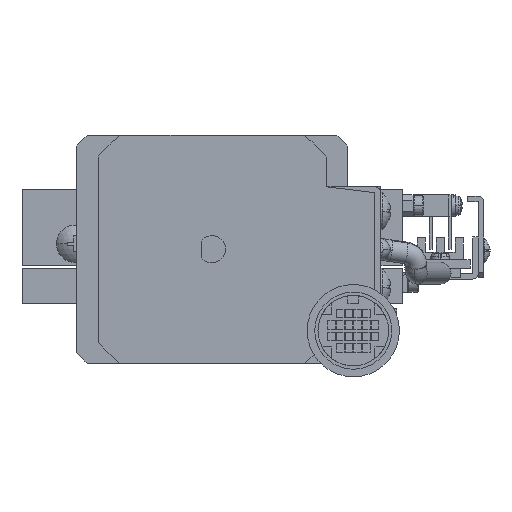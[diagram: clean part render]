
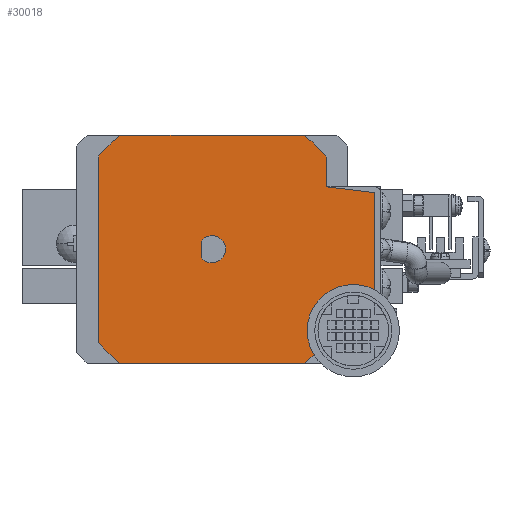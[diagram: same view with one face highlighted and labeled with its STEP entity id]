
A CAD part, left-side view. The second image highlights one B-rep face of the part: STEP entity #30018.
In plain terms, the highlighted planar face has unit normal (-1, 0, 0).
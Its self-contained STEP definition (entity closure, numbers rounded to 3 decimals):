
#132 = CARTESIAN_POINT ( 'NONE',  ( -237.04, 26.275, -135.523 ) ) ;
#339 = DIRECTION ( 'NONE',  ( 0., -0.629, 0.778 ) ) ;
#389 = AXIS2_PLACEMENT_3D ( 'NONE', #132, #9612, #339 ) ;
#750 = EDGE_CURVE ( 'NONE', #53190, #27024, #49613, .T. ) ;
#834 = EDGE_CURVE ( 'NONE', #55890, #53585, #42039, .T. ) ;
#1093 = EDGE_CURVE ( 'NONE', #32240, #59813, #14182, .T. ) ;
#1770 = CARTESIAN_POINT ( 'NONE',  ( -237.04, 28.275, -137.023 ) ) ;
#2570 = CARTESIAN_POINT ( 'NONE',  ( -237.04, 47.275, -118.552 ) ) ;
#3546 = CARTESIAN_POINT ( 'NONE',  ( -237.04, 43.246, -114.523 ) ) ;
#3749 = ORIENTED_EDGE ( 'NONE', *, *, #750, .F. ) ;
#3909 = CARTESIAN_POINT ( 'NONE',  ( -237.04, 5.275, -124.023 ) ) ;
#3978 = DIRECTION ( 'NONE',  ( 0., 0.993, -0.122 ) ) ;
#4107 = DIRECTION ( 'NONE',  ( 0., -0.993, -0.122 ) ) ;
#4213 = ORIENTED_EDGE ( 'NONE', *, *, #59749, .F. ) ;
#4564 = EDGE_CURVE ( 'NONE', #60052, #25714, #49022, .T. ) ;
#4738 = EDGE_CURVE ( 'NONE', #44512, #34258, #58839, .T. ) ;
#5337 = EDGE_CURVE ( 'NONE', #39050, #27586, #24074, .T. ) ;
#5404 = DIRECTION ( 'NONE',  ( 0., 0.8, 0.6 ) ) ;
#6878 = AXIS2_PLACEMENT_3D ( 'NONE', #59131, #34898, #15746 ) ;
#7447 = CARTESIAN_POINT ( 'NONE',  ( -237.04, 26.275, -135.523 ) ) ;
#8459 = LINE ( 'NONE', #57554, #58166 ) ;
#8825 = ORIENTED_EDGE ( 'NONE', *, *, #5337, .F. ) ;
#9238 = VECTOR ( 'NONE', #22918, 1000. ) ;
#9612 = DIRECTION ( 'NONE',  ( 1., 0., 0. ) ) ;
#9905 = VERTEX_POINT ( 'NONE', #44781 ) ;
#10039 = DIRECTION ( 'NONE',  ( 1., 0., 0. ) ) ;
#10284 = EDGE_LOOP ( 'NONE', ( #27396, #60784 ) ) ;
#10427 = CARTESIAN_POINT ( 'NONE',  ( -237.04, 43.246, -114.523 ) ) ;
#10468 = ORIENTED_EDGE ( 'NONE', *, *, #27690, .F. ) ;
#10527 = ORIENTED_EDGE ( 'NONE', *, *, #10803, .F. ) ;
#10803 = EDGE_CURVE ( 'NONE', #53585, #60052, #38579, .T. ) ;
#12565 = EDGE_CURVE ( 'NONE', #25714, #53190, #32732, .T. ) ;
#13121 = CARTESIAN_POINT ( 'NONE',  ( -237.04, 5.275, -147.023 ) ) ;
#13329 = ORIENTED_EDGE ( 'NONE', *, *, #29161, .F. ) ;
#13826 = EDGE_CURVE ( 'NONE', #27024, #16494, #37122, .T. ) ;
#14182 = CIRCLE ( 'NONE', #52184, 27. ) ;
#14995 = CARTESIAN_POINT ( 'NONE',  ( -237.04, 26.275, -135.523 ) ) ;
#15222 = DIRECTION ( 'NONE',  ( 0., 0.629, -0.778 ) ) ;
#15746 = DIRECTION ( 'NONE',  ( 0., 0., -1. ) ) ;
#16494 = VERTEX_POINT ( 'NONE', #13121 ) ;
#17006 = AXIS2_PLACEMENT_3D ( 'NONE', #56983, #57415, #18236 ) ;
#18161 = CARTESIAN_POINT ( 'NONE',  ( -237.04, 9.305, -114.523 ) ) ;
#18236 = DIRECTION ( 'NONE',  ( 0., -1., 0. ) ) ;
#18479 = CARTESIAN_POINT ( 'NONE',  ( -237.04, -3.286, -145.972 ) ) ;
#19273 = CARTESIAN_POINT ( 'NONE',  ( -237.04, 26.275, -135.523 ) ) ;
#19520 = CARTESIAN_POINT ( 'NONE',  ( -237.04, 26.275, -135.523 ) ) ;
#19907 = CARTESIAN_POINT ( 'NONE',  ( -237.04, 5.275, -118.552 ) ) ;
#19987 = LINE ( 'NONE', #52852, #43305 ) ;
#20992 = PLANE ( 'NONE',  #6878 ) ;
#22045 = VECTOR ( 'NONE', #42180, 1000. ) ;
#22422 = CARTESIAN_POINT ( 'NONE',  ( -237.04, 47.275, -152.494 ) ) ;
#22774 = LINE ( 'NONE', #28773, #22045 ) ;
#22918 = DIRECTION ( 'NONE',  ( 0., -1., 0. ) ) ;
#23803 = EDGE_CURVE ( 'NONE', #48346, #9905, #45565, .T. ) ;
#24074 = CIRCLE ( 'NONE', #44665, 27. ) ;
#25714 = VERTEX_POINT ( 'NONE', #46247 ) ;
#26504 = VECTOR ( 'NONE', #4107, 1000. ) ;
#27024 = VERTEX_POINT ( 'NONE', #46084 ) ;
#27343 = DIRECTION ( 'NONE',  ( 1., 0., 0. ) ) ;
#27396 = ORIENTED_EDGE ( 'NONE', *, *, #4738, .T. ) ;
#27586 = VERTEX_POINT ( 'NONE', #22422 ) ;
#27690 = EDGE_CURVE ( 'NONE', #16494, #48346, #22774, .T. ) ;
#28168 = CARTESIAN_POINT ( 'NONE',  ( -237.04, 5.275, -118.552 ) ) ;
#28372 = VECTOR ( 'NONE', #40042, 1000. ) ;
#28773 = CARTESIAN_POINT ( 'NONE',  ( -237.04, 5.275, -147.023 ) ) ;
#29161 = EDGE_CURVE ( 'NONE', #9905, #39050, #19987, .T. ) ;
#29692 = CIRCLE ( 'NONE', #389, 27. ) ;
#30018 = ADVANCED_FACE ( 'NONE', ( #45518, #42478 ), #20992, .F. ) ;
#30141 = AXIS2_PLACEMENT_3D ( 'NONE', #46031, #27343, #60991 ) ;
#31565 = AXIS2_PLACEMENT_3D ( 'NONE', #19520, #47944, #48377 ) ;
#32240 = VERTEX_POINT ( 'NONE', #2570 ) ;
#32732 = LINE ( 'NONE', #43251, #47014 ) ;
#33150 = VERTEX_POINT ( 'NONE', #18161 ) ;
#33296 = ORIENTED_EDGE ( 'NONE', *, *, #1093, .F. ) ;
#33959 = CARTESIAN_POINT ( 'NONE',  ( -237.04, 28.275, -134.023 ) ) ;
#34258 = VERTEX_POINT ( 'NONE', #1770 ) ;
#34581 = VECTOR ( 'NONE', #38656, 1000. ) ;
#34776 = CARTESIAN_POINT ( 'NONE',  ( -237.04, 43.246, -156.523 ) ) ;
#34898 = DIRECTION ( 'NONE',  ( 1., 0., 0. ) ) ;
#37084 = CARTESIAN_POINT ( 'NONE',  ( -237.04, 5.275, -152.494 ) ) ;
#37122 = LINE ( 'NONE', #18479, #59731 ) ;
#38219 = ORIENTED_EDGE ( 'NONE', *, *, #12565, .F. ) ;
#38252 = ORIENTED_EDGE ( 'NONE', *, *, #834, .F. ) ;
#38579 = LINE ( 'NONE', #3909, #26504 ) ;
#38656 = DIRECTION ( 'NONE',  ( 0., 0., -1. ) ) ;
#39050 = VERTEX_POINT ( 'NONE', #34776 ) ;
#39798 = EDGE_LOOP ( 'NONE', ( #33296, #49174, #8825, #13329, #57557, #10468, #60461, #3749, #38219, #48859, #10527, #38252, #4213, #46216 ) ) ;
#40042 = DIRECTION ( 'NONE',  ( 0., 0., -1. ) ) ;
#40405 = LINE ( 'NONE', #33959, #28372 ) ;
#40700 = EDGE_CURVE ( 'NONE', #27586, #32240, #8459, .T. ) ;
#42039 = LINE ( 'NONE', #28168, #34581 ) ;
#42180 = DIRECTION ( 'NONE',  ( 0., 0., -1. ) ) ;
#42478 = FACE_BOUND ( 'NONE', #10284, .T. ) ;
#43107 = DIRECTION ( 'NONE',  ( 0., 1., 0. ) ) ;
#43152 = DIRECTION ( 'NONE',  ( 0., 0., 1. ) ) ;
#43251 = CARTESIAN_POINT ( 'NONE',  ( -237.04, -3.725, -125.57 ) ) ;
#43305 = VECTOR ( 'NONE', #43107, 1000. ) ;
#43557 = DIRECTION ( 'NONE',  ( 1., 0., 0. ) ) ;
#43994 = EDGE_CURVE ( 'NONE', #44512, #34258, #40405, .T. ) ;
#44512 = VERTEX_POINT ( 'NONE', #55965 ) ;
#44665 = AXIS2_PLACEMENT_3D ( 'NONE', #14995, #43557, #15222 ) ;
#44781 = CARTESIAN_POINT ( 'NONE',  ( -237.04, 9.305, -156.523 ) ) ;
#45518 = FACE_OUTER_BOUND ( 'NONE', #39798, .T. ) ;
#45565 = CIRCLE ( 'NONE', #31565, 27. ) ;
#46031 = CARTESIAN_POINT ( 'NONE',  ( -237.04, -3.225, -125.57 ) ) ;
#46084 = CARTESIAN_POINT ( 'NONE',  ( -237.04, -3.286, -145.972 ) ) ;
#46216 = ORIENTED_EDGE ( 'NONE', *, *, #61404, .F. ) ;
#46247 = CARTESIAN_POINT ( 'NONE',  ( -237.04, -3.725, -125.57 ) ) ;
#47014 = VECTOR ( 'NONE', #48355, 1000. ) ;
#47944 = DIRECTION ( 'NONE',  ( 1., 0., 0. ) ) ;
#48346 = VERTEX_POINT ( 'NONE', #37084 ) ;
#48355 = DIRECTION ( 'NONE',  ( 0., 0., -1. ) ) ;
#48377 = DIRECTION ( 'NONE',  ( 0., -0.778, -0.629 ) ) ;
#48859 = ORIENTED_EDGE ( 'NONE', *, *, #4564, .F. ) ;
#48983 = CARTESIAN_POINT ( 'NONE',  ( -237.04, -3.725, -145.476 ) ) ;
#49022 = CIRCLE ( 'NONE', #30141, 0.5 ) ;
#49107 = AXIS2_PLACEMENT_3D ( 'NONE', #19273, #10039, #5404 ) ;
#49174 = ORIENTED_EDGE ( 'NONE', *, *, #40700, .F. ) ;
#49613 = CIRCLE ( 'NONE', #17006, 0.5 ) ;
#50365 = DIRECTION ( 'NONE',  ( 1., 0., 0. ) ) ;
#52184 = AXIS2_PLACEMENT_3D ( 'NONE', #7447, #50365, #55416 ) ;
#52852 = CARTESIAN_POINT ( 'NONE',  ( -237.04, 9.305, -156.523 ) ) ;
#53190 = VERTEX_POINT ( 'NONE', #48983 ) ;
#53585 = VERTEX_POINT ( 'NONE', #56767 ) ;
#55416 = DIRECTION ( 'NONE',  ( 0., 0.778, 0.629 ) ) ;
#55419 = CARTESIAN_POINT ( 'NONE',  ( -237.04, -3.286, -125.074 ) ) ;
#55890 = VERTEX_POINT ( 'NONE', #19907 ) ;
#55965 = CARTESIAN_POINT ( 'NONE',  ( -237.04, 28.275, -134.023 ) ) ;
#56767 = CARTESIAN_POINT ( 'NONE',  ( -237.04, 5.275, -124.023 ) ) ;
#56983 = CARTESIAN_POINT ( 'NONE',  ( -237.04, -3.225, -145.476 ) ) ;
#57415 = DIRECTION ( 'NONE',  ( 1., 0., 0. ) ) ;
#57554 = CARTESIAN_POINT ( 'NONE',  ( -237.04, 47.275, -152.494 ) ) ;
#57557 = ORIENTED_EDGE ( 'NONE', *, *, #23803, .F. ) ;
#58166 = VECTOR ( 'NONE', #43152, 1000. ) ;
#58839 = CIRCLE ( 'NONE', #49107, 2.5 ) ;
#59131 = CARTESIAN_POINT ( 'NONE',  ( -237.04, -27.776, -85.972 ) ) ;
#59731 = VECTOR ( 'NONE', #3978, 1000. ) ;
#59749 = EDGE_CURVE ( 'NONE', #33150, #55890, #29692, .T. ) ;
#59813 = VERTEX_POINT ( 'NONE', #10427 ) ;
#60052 = VERTEX_POINT ( 'NONE', #55419 ) ;
#60448 = LINE ( 'NONE', #3546, #9238 ) ;
#60461 = ORIENTED_EDGE ( 'NONE', *, *, #13826, .F. ) ;
#60784 = ORIENTED_EDGE ( 'NONE', *, *, #43994, .F. ) ;
#60991 = DIRECTION ( 'NONE',  ( 0., -0.122, 0.993 ) ) ;
#61404 = EDGE_CURVE ( 'NONE', #59813, #33150, #60448, .T. ) ;
